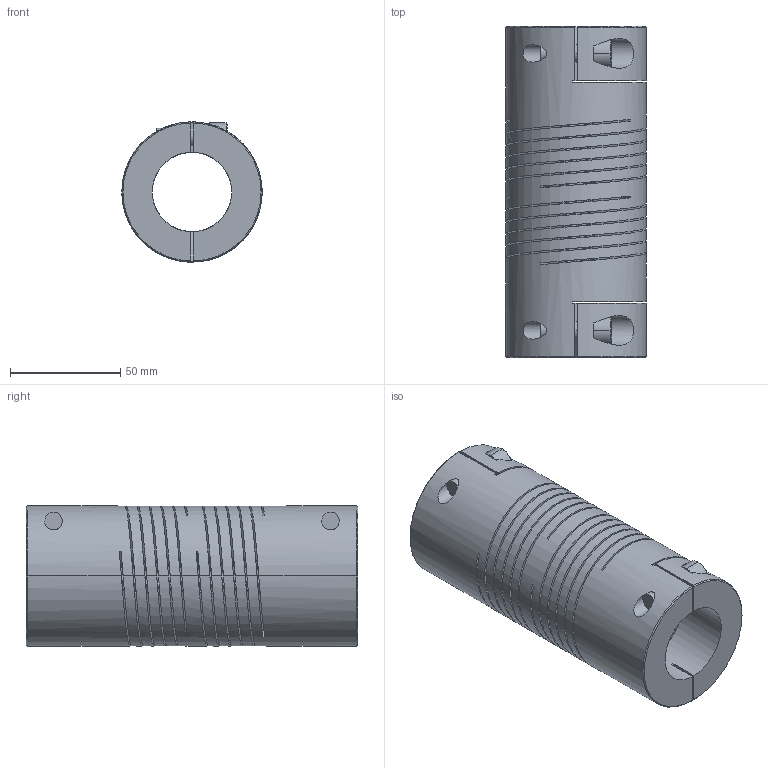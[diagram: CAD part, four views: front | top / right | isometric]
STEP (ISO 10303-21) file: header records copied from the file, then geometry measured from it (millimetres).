
FILE_DESCRIPTION((''),'2;1');
FILE_NAME('727_64','2006-12-05T',('Gary Melling'),(''),'PRO/ENGINEER BY PARAMETRIC TECHNOLOGY CORPORATION, 2006240','PRO/ENGINEER BY PARAMETRIC TECHNOLOGY CORPORATION, 2006240','');
FILE_SCHEMA(('CONFIG_CONTROL_DESIGN'));
Length unit declared in the file: millimetre
Products named in the file (1): 727_64
Bounding box: 63.5 x 150 x 63.5 mm (x, y, z)
Volume: 294945.7 mm3; surface area: 103613.1 mm2
Topology: 1 solids, 1 shells, 134 faces, 398 edges, 260 vertices
Faces by surface type: plane 60, cylinder 56, bspline 12, cone 6
Entity records: 7872 total; most frequent: CARTESIAN_POINT 4444, ORIENTED_EDGE 796, DIRECTION 580, EDGE_CURVE 398, VERTEX_POINT 260, VECTOR 200, LINE 200, AXIS2_PLACEMENT_3D 190
